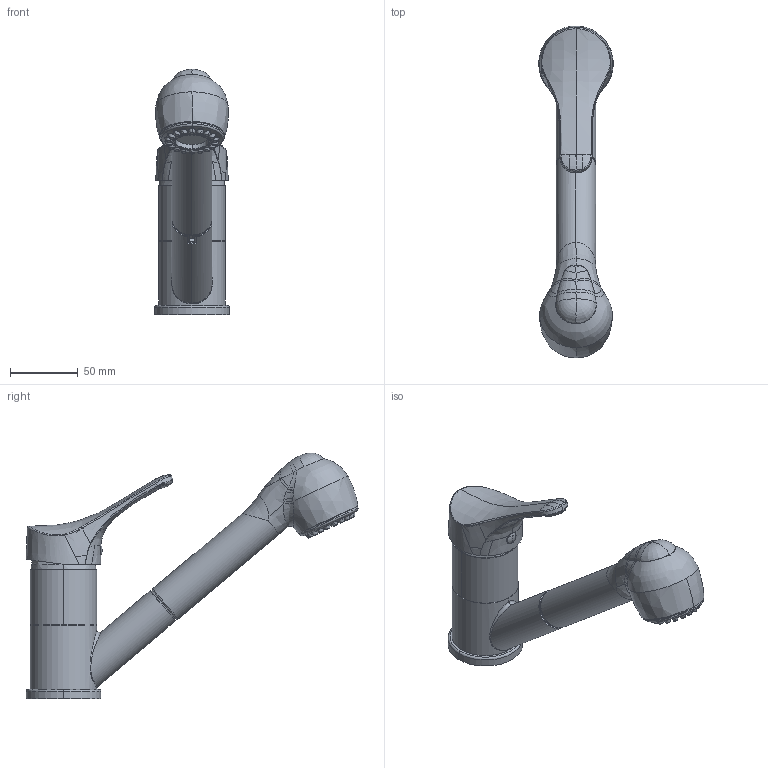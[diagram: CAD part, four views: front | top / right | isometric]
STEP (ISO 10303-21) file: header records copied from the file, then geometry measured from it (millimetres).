
FILE_DESCRIPTION(/* description */ (''),/* implementation_level */ '2;1');
FILE_NAME(/* name */ 'MD10CR3.stp',/* time_stamp */ '2021-05-19T17:47:57+02:00',/* author */ (''),/* organization */ (''),/* preprocessor_version */ 'ST-DEVELOPER v16',/* originating_system */ 'SIEMENS PLM Software NX 11.0',/* authorisation */ '');
FILE_SCHEMA (('AUTOMOTIVE_DESIGN { 1 0 10303 214 3 1 1 1 }'));
Length unit declared in the file: millimetre
Products named in the file (1): mart28C01073d1kx
Bounding box: 55 x 244.4 x 181.08 mm (x, y, z)
Volume: 236637.7 mm3; surface area: 113991.8 mm2
Topology: 12 solids, 17 shells, 698 faces, 1616 edges, 1012 vertices
Faces by surface type: bspline 251, cylinder 169, plane 117, extrusion 82, cone 58, torus 18, sphere 3
Full cylindrical faces by diameter (mm): 24 x1, 43.8 x1
Entity records: 51784 total; most frequent: CARTESIAN_POINT 34860, ORIENTED_EDGE 3203, DIRECTION 1831, EDGE_CURVE 1611, VERTEX_POINT 1015, B_SPLINE_CURVE_WITH_KNOTS 935, EDGE_LOOP 779, ADVANCED_FACE 698
